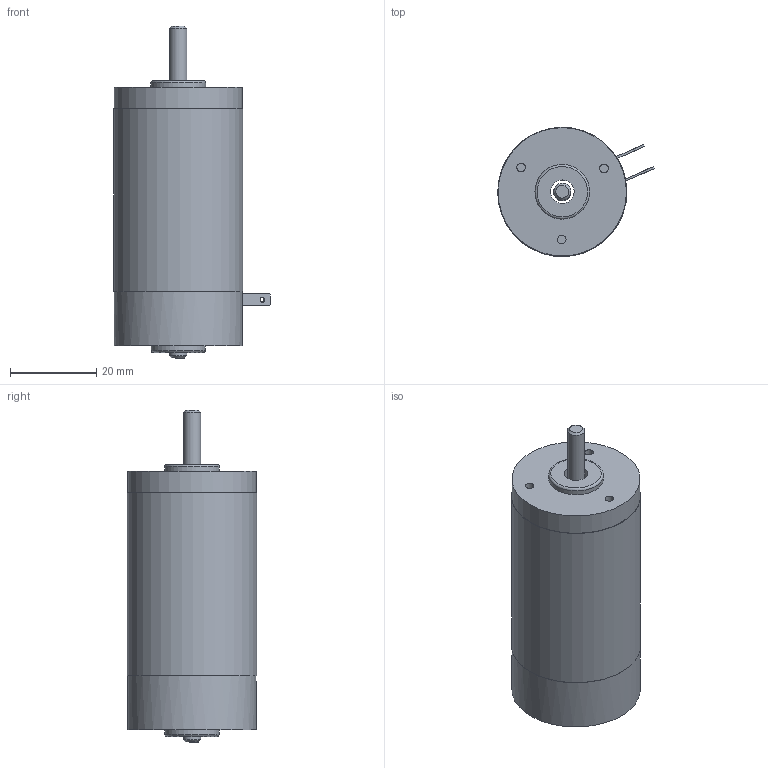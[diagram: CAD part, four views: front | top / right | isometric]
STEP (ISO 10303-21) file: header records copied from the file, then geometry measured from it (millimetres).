
FILE_DESCRIPTION(/* description */ (''),/* implementation_level */ '2;1');
FILE_NAME(/* name */ 'Z:\새 폴더\Compact Type RM3_3D\RM34ㅁBT.stp',/* time_stamp */ '2022-04-01T13:01:56+09:00',/* author */ ('umbro'),/* organization */ (''),/* preprocessor_version */ 'ST-DEVELOPER v17',/* originating_system */ 'Autodesk Inventor 2019',/* authorisation */ '');
FILE_SCHEMA (('AUTOMOTIVE_DESIGN { 1 0 10303 214 3 1 1 }'));
Length unit declared in the file: millimetre
Products named in the file (7): RM34ㅁBT; RM33_SHAFT; RM3_PIPE_HOUSING_30X36.2; AS 1427 Z - 미터 M2.5 x 8; RM3_front; RM3_REAR_HOUSING; RM3_BRUSH_TERMINAL_TYPE
Assembly tree (7 placements, depth 2):
  RM34ㅁBT
    RM33_SHAFT
    RM3_PIPE_HOUSING_30X36.2
    AS 1427 Z - 미터 M2.5 x 8  x2
    RM3_front
    RM3_REAR_HOUSING
    RM3_BRUSH_TERMINAL_TYPE
Bounding box: 36.37 x 29.99 x 77.11 mm (x, y, z)
Volume: 29008.1 mm3; surface area: 14481.4 mm2
Topology: 7 solids, 7 shells, 148 faces, 389 edges, 262 vertices
Faces by surface type: plane 71, cone 36, cylinder 30, torus 11
Full cylindrical faces by diameter (mm): 1.2 x2, 1.8 x3, 2 x3, 2.224 x2, 2.5 x2, 2.6 x2, 3.969 x1, 4 x2, 4.4 x2, 5.5 x1, 6.5 x1, 12.6 x1, 12.7 x1, 17.855 x1, 27.2 x1, 29.8 x2, 30 x1
Entity records: 3867 total; most frequent: CARTESIAN_POINT 814, DIRECTION 615, ORIENTED_EDGE 548, EDGE_CURVE 274, AXIS2_PLACEMENT_3D 248, VERTEX_POINT 187, EDGE_LOOP 141, LINE 119
